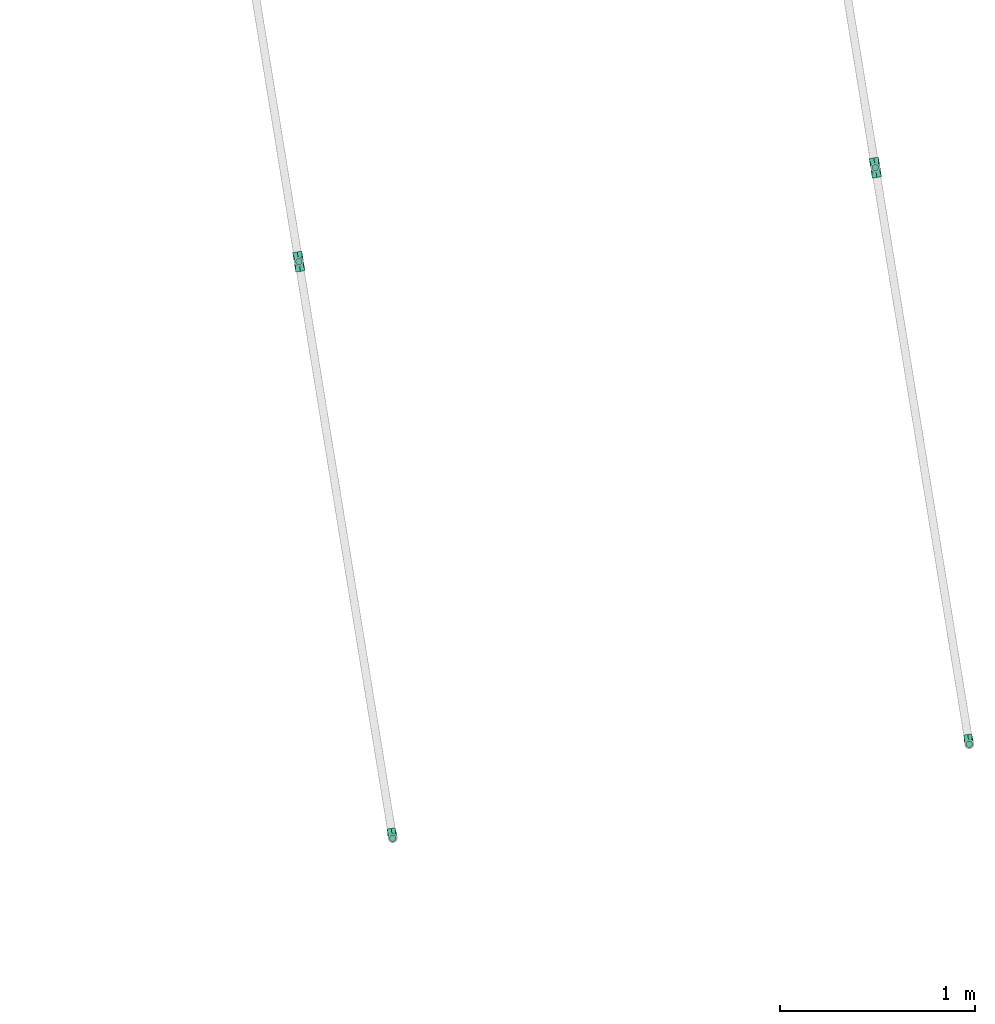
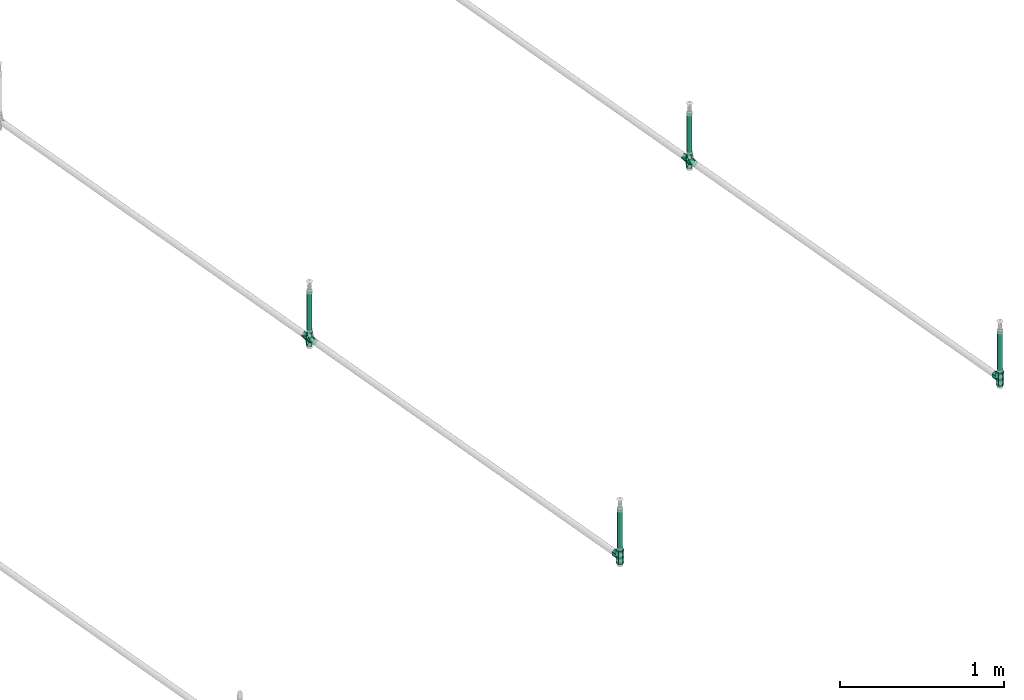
# One storey, part 20 of 56: 4 flow fittings, 4 flow segments.
"""IFC2X3 building model written with IfcOpenShell, lengths in millimetres."""

from ifc_helpers import new_model, entity, si_unit, converted_unit, derived_unit, direction, frame, origin, origin_with_axes, origin_2d_with_axis, place, context, subcontext, project, spatial, circle, extrude, faceted_brep, source, transform, mapped, material, type_object, element, save


model = new_model("IFC2X3")

# Units and contexts
model_context = context("Model", 3, precision=0.01, world=origin(), true_north=direction((6.12323399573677e-17, 1.0)))
plan_context = context("Plan", 3, precision=1e-05, world=origin_with_axes())
body_context = subcontext(model_context, "Body", "Model", "MODEL_VIEW")
ifc_project = project(units=[converted_unit("PLANEANGLEUNIT", "DEGREE", entity("IfcPositiveLengthMeasure", 0.0174532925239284), si_unit("PLANEANGLEUNIT", "RADIAN"), dimensions=[0, 0, 0, 0, 0, 0, 0]), si_unit("AREAUNIT", "SQUARE_METRE"), si_unit("LENGTHUNIT", "METRE", prefix="MILLI"), si_unit("MASSUNIT", "GRAM", prefix="KILO"), si_unit("POWERUNIT", "WATT"), si_unit("PRESSUREUNIT", "PASCAL", prefix="KILO"), si_unit("FORCEUNIT", "NEWTON", prefix="KILO"), si_unit("ELECTRICVOLTAGEUNIT", "VOLT"), si_unit("ELECTRICCURRENTUNIT", "AMPERE"), si_unit("THERMODYNAMICTEMPERATUREUNIT", "DEGREE_CELSIUS"), si_unit("TIMEUNIT", "SECOND"), si_unit("VOLUMEUNIT", "CUBIC_METRE"), derived_unit("LINEARVELOCITYUNIT", [(si_unit("LENGTHUNIT", "METRE"), 1), (si_unit("TIMEUNIT", "SECOND"), -1)]), derived_unit("VOLUMETRICFLOWRATEUNIT", [(si_unit("VOLUMEUNIT", "CUBIC_METRE"), 1), (si_unit("TIMEUNIT", "SECOND"), -1)]), derived_unit("THERMALTRANSMITTANCEUNIT", [(si_unit("POWERUNIT", "WATT"), 1), (si_unit("THERMODYNAMICTEMPERATUREUNIT", "KELVIN"), -1), (si_unit("AREAUNIT", "SQUARE_METRE"), -1)]), derived_unit("SOUNDPRESSUREUNIT", [(si_unit("PRESSUREUNIT", "PASCAL"), 1)])], contexts=[model_context, plan_context])

# Site, building, storey
site_placement = place(None, frame((-3.09682673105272e-06, 1.93776733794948e-05, 0.0), z_axis=(0.0, 0.0, 1.0), x_axis=(-0.160806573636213, 0.986985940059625, 0.0)))
site = spatial("IfcSite", under=ifc_project, at=site_placement, Name="Default", CompositionType="ELEMENT")
building_placement = place(site_placement, frame((0.0, 0.0, 0.0), z_axis=(0.0, 0.0, 1.0), x_axis=(1.0, -2.77555756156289e-17, 0.0)))
building = spatial("IfcBuilding", under=site, at=building_placement, Name="Bygning (endres i Project Information)", CompositionType="ELEMENT")
storey_placement = place(building_placement, frame((0.0, 0.0, 51360.0000000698), z_axis=(0.0, 0.0, 1.0), x_axis=(1.0, -2.77555756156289e-17, 0.0)))
storey = spatial("IfcBuildingStorey", under=building, at=storey_placement, Name="H01-Nivå D+0,36", CompositionType="ELEMENT", Elevation=51360.0000000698)

# Flow fittings
ifc_material = material(Name="3320.001")
pipe_fitting_type_1 = type_object("IfcPipeFittingType", Name="RS_53_PIF_UN_Tee-Reduced-EN10241_MC_gen:RS_53_PIF_UN_Tee-Reduced-EN10241_MC_gen", PredefinedType="NOTDEFINED", material=ifc_material)
shared_shape_1 = source(origin(), body_context, "Body", "Brep", [
    faceted_brep([(51.0, 24.4999999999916, 0.0), (51.0, 19.5447235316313, 8.58279060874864), (51.0, 12.2499999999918, 21.2176223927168), (51.0, 0.0, 21.2176223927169), (51.0, -12.2500000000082, 21.217622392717), (51.0, -18.3750000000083, 10.6088111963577), (51.0, -24.5000000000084, 0.0), (51.0, -21.4375000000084, -5.30440559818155), (51.0, -18.3750000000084, -10.6088111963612), (51.0, -12.2500000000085, -21.2176223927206), (51.0, 0.0, -21.2176223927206), (51.0, 12.2499999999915, -21.2176223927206), (51.0, 18.3749999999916, -10.6088111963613), (-51.0, -12.2500000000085, -21.2176223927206), (-51.0, -18.3750000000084, -10.6088111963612), (-51.0, -24.5000000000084, 0.0), (-51.0, -21.4375000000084, 5.30440559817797), (-51.0, -18.3750000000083, 10.6088111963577), (-51.0, -12.2500000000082, 21.217622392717), (-51.0, 0.0, 21.2176223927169), (-51.0, 12.2499999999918, 21.2176223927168), (-51.0, 18.3749999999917, 10.6088111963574), (-51.0, 24.4999999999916, 0.0), (-51.0, 18.3749999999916, -10.6088111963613), (-51.0, 12.2499999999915, -21.2176223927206), (-51.0, 0.0, -21.2176223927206), (-19.8526742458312, -19.8526742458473, 8.75676527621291), (-19.115895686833, -19.115895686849, 10.1450468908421), (-13.7317913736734, -13.7317913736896, 20.2900937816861), (21.1391731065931, -21.1391731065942, 8.42882562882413), (24.5000000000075, -24.5000000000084, 0.0), (0.0, 0.0, 24.4999999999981), (17.7783462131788, -17.7783462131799, 16.85765125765), (-24.4999999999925, -24.5000000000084, 0.0), (-21.1391731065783, -21.1391731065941, -8.42882562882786), (-17.7783462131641, -17.7783462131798, -16.8576512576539), (0.0, 0.0, -24.5000000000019), (19.8526741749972, -19.852674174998, -8.75676540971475), (13.7317913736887, -13.7317913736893, -20.2900937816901), (19.1158956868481, -19.1158956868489, -10.1450468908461), (12.2500000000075, -51.0, 21.2176223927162), (0.0, -51.0, 21.2176223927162), (-12.2499999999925, -51.0, 21.2176223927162), (-19.5447234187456, -51.0, 8.58279080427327), (-24.4999999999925, -51.0, 0.0), (-18.3749999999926, -51.0, -10.6088111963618), (-12.2499999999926, -51.0, -21.2176223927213), (0.0, -51.0, -21.2176223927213), (12.2500000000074, -51.0, -21.2176223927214), (19.5447242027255, -51.0, -8.58278944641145), (24.5000000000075, -51.0, 0.0), (18.3750000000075, -51.0, 10.6088111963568)], [[[0, 1, 2, 3, 4, 5, 6, 7, 8, 9, 10, 11, 12]], [[13, 14, 15, 16, 17, 18, 19, 20, 21, 22, 23, 24, 25]], [[2, 1, 0, 22, 21, 20]], [[17, 26, 27, 28]], [[6, 29, 30]], [[2, 20, 31]], [[5, 32, 29]], [[3, 2, 31, 4]], [[26, 17, 16]], [[19, 18, 28]], [[33, 16, 15]], [[28, 18, 17]], [[32, 4, 31]], [[5, 29, 6]], [[33, 26, 16]], [[31, 20, 19]], [[32, 5, 4]], [[28, 31, 19]], [[34, 15, 14]], [[35, 14, 13]], [[36, 13, 25, 24]], [[37, 8, 7]], [[9, 8, 38]], [[14, 35, 34]], [[15, 34, 33]], [[6, 30, 7]], [[13, 36, 35]], [[8, 37, 39, 38]], [[0, 12, 11, 24, 23, 22]], [[38, 10, 9]], [[38, 36, 10]], [[11, 36, 24]], [[30, 37, 7]], [[36, 11, 10]], [[40, 41, 42, 43, 44, 45, 46, 47, 48, 49, 50, 51]], [[45, 33, 34, 35]], [[49, 39, 37, 30]], [[35, 46, 45]], [[33, 45, 44]], [[38, 47, 36]], [[48, 47, 38]], [[48, 39, 49]], [[30, 50, 49]], [[39, 48, 38]], [[47, 46, 36]], [[36, 46, 35]], [[51, 30, 29, 32]], [[32, 40, 51]], [[31, 40, 32]], [[30, 51, 50]], [[28, 41, 31]], [[42, 41, 28]], [[42, 27, 43]], [[42, 28, 27]], [[43, 27, 26, 33]], [[33, 44, 43]], [[41, 40, 31]]]),
])
for number, where, z_axis, x_axis in (
    (1, (994236.263254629, -395286.663841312, 3370.0), (-2.77555756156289e-17, -1.0, 0.0), (0.0, 0.0, 1.0)),
    (2, (994236.26325463, -392286.663841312, 3370.0), (-2.77555756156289e-17, -1.0, 0.0), (0.0, 0.0, 1.0)),
):
    element("IfcFlowFitting", number, at=place(storey_placement, frame(where, z_axis=z_axis, x_axis=x_axis)), inside=storey, type_object=pipe_fitting_type_1, material=ifc_material, Name="RS_53_PIF_UN_Tee-Reduced-EN10241_MC_gen:RS_53_PIF_UN_Tee-Reduced-EN10241_MC_gen", ObjectType="RS_53_PIF_UN_Tee-Reduced-EN10241_MC_gen:RS_53_PIF_UN_Tee-Reduced-EN10241_MC_gen", context=body_context, shape_type="MappedRepresentation", body=[
        mapped(shared_shape_1, transform((0.0, 0.0, 0.0), scale=1.0)),
    ])
pipe_fitting_type_2 = type_object("IfcPipeFittingType", Name="RS_53_PIF_UN_Cross-EN10241_MC_gen:RS_53_PIF_UN_Cross-EN10241_MC_gen", PredefinedType="NOTDEFINED", material=ifc_material)
shared_shape_2 = source(origin(), body_context, "Body", "Brep", [
    faceted_brep([(51.0, -12.2500000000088, 12.2499999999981), (51.0, 0.0, 24.4999999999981), (15.8118687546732, -15.8118687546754, 18.7145613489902), (20.1559343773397, -20.155934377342, 9.35728067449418), (24.5000000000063, -24.5000000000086, 0.0), (51.0, -19.2143724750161, 5.28562752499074), (0.0, 0.0, 24.4999999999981), (-15.8118687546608, -15.8118687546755, 18.7145613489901), (-51.0, 0.0, 24.4999999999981), (51.0, -24.5000000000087, 0.0), (-24.4999999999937, -24.5000000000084, 0.0), (-51.0, -18.3750000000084, 6.12499999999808), (-51.0, -24.5000000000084, 0.0), (24.5000000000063, 24.4999999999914, 0.0), (51.0, 18.3749999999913, 6.12499999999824), (51.0, 24.4999999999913, 0.0), (-24.4999999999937, 24.4999999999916, 0.0), (-51.0, 24.4999999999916, 0.0), (-51.0, 19.2143723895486, 5.28562761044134), (20.1559343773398, 20.1559343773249, 9.35728067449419), (15.8118687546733, 15.8118687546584, 18.7145613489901), (51.0, 12.2499999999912, 12.2499999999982), (-15.8118687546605, 15.8118687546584, 18.7145613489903), (51.0, 12.2499999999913, -12.2500000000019), (51.0, 0.0, -24.5000000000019), (15.8118687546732, 15.8118687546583, -18.714561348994), (51.0, 19.2143723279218, -5.28562767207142), (-51.0, 18.3749999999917, -6.12500000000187), (20.1559343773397, 20.1559343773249, -9.35728067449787), (0.0, 0.0, -24.5000000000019), (-15.8118687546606, 15.8118687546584, -18.7145613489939), (-51.0, 0.0, -24.5000000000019), (51.0, -18.3750000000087, -6.12500000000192), (15.8118687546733, -15.8118687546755, -18.7145613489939), (51.0, -12.2500000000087, -12.2500000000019), (20.1559343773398, -20.1559343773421, -9.35728067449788), (-12.2499999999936, -51.0, -12.2500000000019), (0.0, -51.0, -24.5000000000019), (12.2500000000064, -51.0, -12.2500000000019), (19.2143723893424, -51.0, -5.28562761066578), (24.5000000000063, -51.0, 0.0), (18.3750000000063, -51.0, 6.12499999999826), (12.2500000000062, -51.0, 12.2499999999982), (0.0, -51.0, 24.4999999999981), (-12.2499999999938, -51.0, 12.2499999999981), (-19.2143725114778, -51.0, 5.28562748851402), (-24.4999999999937, -51.0, 0.0), (-20.1559343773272, -20.155934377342, 9.35728067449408), (0.0, 51.0, 24.4999999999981), (-18.3749999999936, 51.0, 6.12499999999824), (-24.4999999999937, 51.0, 0.0), (24.5000000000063, 51.0, 0.0), (19.2143725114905, 51.0, 5.28562748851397), (18.3750000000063, 51.0, -6.12500000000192), (0.0, 51.0, -24.5000000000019), (-19.1158956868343, -19.115895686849, -10.1450468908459), (-13.7317913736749, -13.7317913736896, -20.2900937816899), (12.2500000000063, 51.0, -12.2500000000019), (-12.2499999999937, 51.0, -12.2500000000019), (-19.2143723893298, 51.0, -5.28562761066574), (-12.2499999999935, 51.0, 12.2499999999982), (12.2500000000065, 51.0, 12.2499999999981), (-20.1559343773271, 20.155934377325, 9.35728067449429), (-20.1559343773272, 20.155934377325, -9.35728067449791), (-51.0, -12.2500000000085, 12.2499999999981), (-51.0, 12.2499999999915, 12.2499999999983), (-51.0, 12.2499999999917, -12.2500000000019), (-51.0, -12.2500000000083, -12.2500000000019)], [[[0, 1, 2]], [[3, 4, 5]], [[2, 3, 0]], [[1, 6, 2]], [[7, 6, 8]], [[4, 9, 5]], [[10, 11, 12]], [[13, 14, 15]], [[16, 17, 18]], [[19, 20, 21]], [[20, 1, 21]], [[6, 1, 20]], [[22, 8, 6]], [[14, 13, 19]], [[19, 21, 14]], [[0, 3, 5]], [[23, 24, 25]], [[13, 15, 26]], [[16, 27, 17]], [[28, 13, 26]], [[25, 28, 23]], [[24, 29, 25]], [[30, 29, 31]], [[23, 28, 26]], [[4, 32, 9]], [[33, 24, 34]], [[29, 24, 33]], [[35, 33, 34]], [[35, 34, 32]], [[32, 4, 35]], [[36, 37, 38, 39, 40, 41, 42, 43, 44, 45, 46]], [[44, 43, 7]], [[47, 10, 45]], [[7, 47, 44]], [[43, 6, 7]], [[6, 48, 22]], [[10, 46, 45]], [[16, 49, 50]], [[4, 41, 40]], [[13, 51, 52]], [[3, 2, 42]], [[2, 43, 42]], [[6, 43, 2]], [[48, 6, 20]], [[41, 4, 3]], [[3, 42, 41]], [[44, 47, 45]], [[38, 37, 33]], [[4, 40, 39]], [[13, 53, 51]], [[35, 4, 39]], [[33, 35, 38]], [[37, 29, 33]], [[29, 54, 25]], [[38, 35, 39]], [[46, 55, 36]], [[56, 37, 36]], [[29, 37, 56]], [[55, 56, 36]], [[55, 46, 10]], [[53, 57, 54, 58, 59, 50, 49, 60, 48, 61, 52, 51]], [[61, 48, 20]], [[19, 13, 52]], [[20, 19, 61]], [[62, 22, 60]], [[22, 48, 60]], [[49, 16, 62]], [[62, 60, 49]], [[61, 19, 52]], [[58, 54, 30]], [[16, 50, 59]], [[63, 16, 59]], [[30, 63, 58]], [[54, 29, 30]], [[58, 63, 59]], [[25, 54, 57]], [[28, 25, 57]], [[28, 57, 53]], [[53, 13, 28]], [[12, 11, 64, 8, 65, 18, 17, 27, 66, 31, 67]], [[32, 34, 24, 23, 26, 15, 14, 21, 1, 0, 5, 9]], [[47, 64, 11]], [[7, 8, 64]], [[11, 10, 47]], [[22, 62, 65]], [[62, 16, 18]], [[65, 8, 22]], [[65, 62, 18]], [[47, 7, 64]], [[63, 66, 27]], [[27, 16, 63]], [[63, 30, 66]], [[67, 55, 12]], [[30, 31, 66]], [[55, 10, 12]], [[67, 31, 56]], [[56, 31, 29]], [[67, 56, 55]]]),
])
for number, where, z_axis, x_axis in (
    (3, (997236.26325463, -395286.663841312, 3370.0), (-2.77555756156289e-17, -1.0, 0.0), (0.0, 0.0, 1.0)),
    (4, (997236.263254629, -392286.663841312, 3370.0), (-2.77555756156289e-17, -1.0, 0.0), (0.0, 0.0, 1.0)),
):
    element("IfcFlowFitting", number, at=place(storey_placement, frame(where, z_axis=z_axis, x_axis=x_axis)), inside=storey, type_object=pipe_fitting_type_2, material=ifc_material, Name="RS_53_PIF_UN_Cross-EN10241_MC_gen:RS_53_PIF_UN_Cross-EN10241_MC_gen", ObjectType="RS_53_PIF_UN_Cross-EN10241_MC_gen:RS_53_PIF_UN_Cross-EN10241_MC_gen", context=body_context, shape_type="MappedRepresentation", body=[
        mapped(shared_shape_2, transform((0.0, 0.0, 0.0), scale=1.0)),
    ])

# Flow segments
pipe_segment_type = type_object("IfcPipeSegmentType", Name="Pipe Types:Stålrør sveist og gjenget", PredefinedType="NOTDEFINED", material=ifc_material)
flow_segment_1_placement = place(storey_placement, frame((0.0, 0.0, 0.0), z_axis=(0.0, 0.0, 1.0), x_axis=(1.0, -2.77555756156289e-17, 0.0)))
element("IfcFlowSegment", 5, at=flow_segment_1_placement, inside=storey, type_object=pipe_segment_type, Name="Pipe Types:Stålrør sveist og gjenget", ObjectType="Pipe Types:Stålrør sveist og gjenget", context=body_context, shape_type="SweptSolid", body=[
    extrude(circle(Radius=16.8500004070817, at=origin_2d_with_axis()), frame((994236.26325463, -395286.663841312, 3418.26666666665), z_axis=(0.0, 0.0, 1.0), x_axis=(-1.0, 0.0, 0.0)), (0.0, 0.0, 1.0), 306.733333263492),
])
flow_segment_2_placement = place(storey_placement, frame((0.0, 0.0, 0.0), z_axis=(0.0, 0.0, 1.0), x_axis=(1.0, -2.77555756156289e-17, 0.0)))
element("IfcFlowSegment", 6, at=flow_segment_2_placement, inside=storey, type_object=pipe_segment_type, Name="Pipe Types:Stålrør sveist og gjenget", ObjectType="Pipe Types:Stålrør sveist og gjenget", context=body_context, shape_type="SweptSolid", body=[
    extrude(circle(Radius=16.8500004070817, at=origin_2d_with_axis()), frame((997236.263254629, -395286.663841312, 3418.26666666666), z_axis=(0.0, 0.0, 1.0), x_axis=(-1.0, 0.0, 0.0)), (0.0, 0.0, 1.0), 306.733333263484),
])
flow_segment_3_placement = place(storey_placement, frame((0.0, 0.0, 0.0), z_axis=(0.0, 0.0, 1.0), x_axis=(1.0, -2.77555756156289e-17, 0.0)))
element("IfcFlowSegment", 7, at=flow_segment_3_placement, inside=storey, type_object=pipe_segment_type, Name="Pipe Types:Stålrør sveist og gjenget", ObjectType="Pipe Types:Stålrør sveist og gjenget", context=body_context, shape_type="SweptSolid", body=[
    extrude(circle(Radius=16.8500004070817, at=origin_2d_with_axis()), frame((994236.26325463, -392286.663841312, 3418.26666666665), z_axis=(0.0, 0.0, 1.0), x_axis=(-1.0, 0.0, 0.0)), (0.0, 0.0, 1.0), 306.733333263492),
])
flow_segment_4_placement = place(storey_placement, frame((0.0, 0.0, 0.0), z_axis=(0.0, 0.0, 1.0), x_axis=(1.0, -2.77555756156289e-17, 0.0)))
element("IfcFlowSegment", 8, at=flow_segment_4_placement, inside=storey, type_object=pipe_segment_type, Name="Pipe Types:Stålrør sveist og gjenget", ObjectType="Pipe Types:Stålrør sveist og gjenget", context=body_context, shape_type="SweptSolid", body=[
    extrude(circle(Radius=16.8500004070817, at=origin_2d_with_axis()), frame((997236.263254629, -392286.663841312, 3418.26666666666), z_axis=(0.0, 0.0, 1.0), x_axis=(-1.0, 0.0, 0.0)), (0.0, 0.0, 1.0), 306.733333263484),
])

save(model, "model.ifc")
